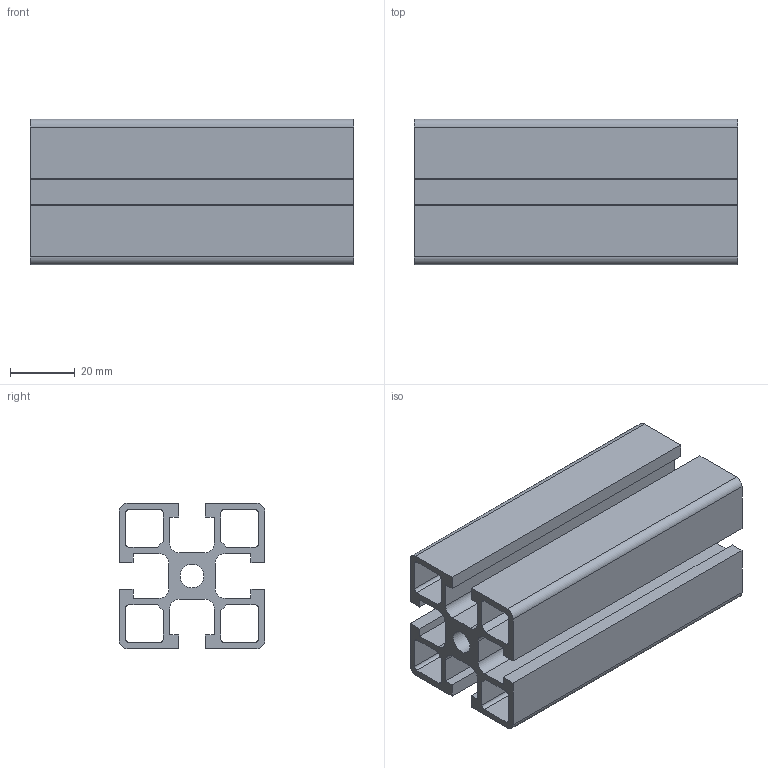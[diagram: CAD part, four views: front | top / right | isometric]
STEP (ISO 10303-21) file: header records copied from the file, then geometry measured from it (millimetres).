
FILE_DESCRIPTION(/* description */ ('STEP AP203'),/* implementation_level */ '2;1');
FILE_NAME(/* name */ 'C:\Users\Stefan.Nesic\Desktop\01010STEP\000Verifica\CORRETTI\PS4545.stp',/* time_stamp */ '2022-07-11T12:07:17+02:00',/* author */ ('stefan.nesic'),/* organization */ (''),/* preprocessor_version */ 'ST-DEVELOPER v18.1',/* originating_system */ 'Autodesk Inventor 2021',/* authorisation */ '');
FILE_SCHEMA (('CONFIG_CONTROL_DESIGN'));
Length unit declared in the file: millimetre
Products named in the file (1): PS4545
Bounding box: 100 x 45 x 45 mm (x, y, z)
Volume: 71340.1 mm3; surface area: 54547 mm2
Topology: 1 solids, 1 shells, 83 faces, 243 edges, 162 vertices
Faces by surface type: plane 58, cylinder 25
Full cylindrical faces by diameter (mm): 7.3 x1
Entity records: 2808 total; most frequent: CARTESIAN_POINT 489, ORIENTED_EDGE 486, DIRECTION 461, EDGE_CURVE 243, LINE 193, VECTOR 193, VERTEX_POINT 162, AXIS2_PLACEMENT_3D 134
